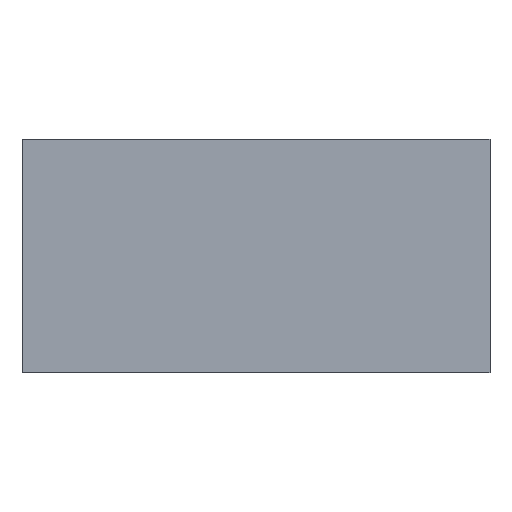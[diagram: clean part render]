
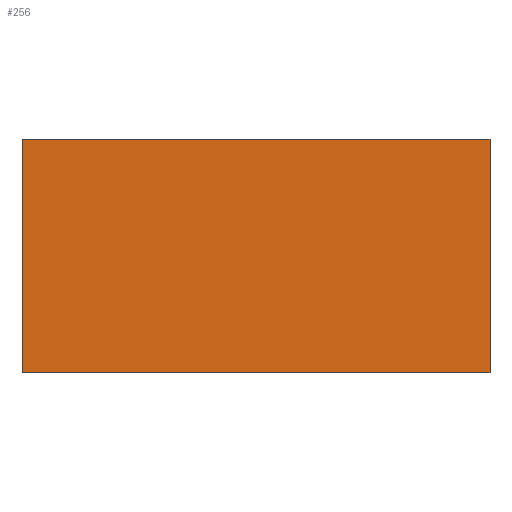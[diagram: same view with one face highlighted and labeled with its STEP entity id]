
A CAD part, front view. The second image highlights one B-rep face of the part: STEP entity #256.
In plain terms, the highlighted planar face has unit normal (0, -1, 0).
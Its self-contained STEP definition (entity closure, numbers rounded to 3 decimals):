
#40=ORIENTED_EDGE('',*,*,#79,.F.);
#41=ORIENTED_EDGE('',*,*,#78,.F.);
#42=ORIENTED_EDGE('',*,*,#80,.T.);
#43=ORIENTED_EDGE('',*,*,#81,.T.);
#78=EDGE_CURVE('',#97,#96,#114,.T.);
#79=EDGE_CURVE('',#96,#98,#115,.T.);
#80=EDGE_CURVE('',#97,#99,#116,.T.);
#81=EDGE_CURVE('',#99,#98,#117,.T.);
#96=VERTEX_POINT('',#349);
#97=VERTEX_POINT('',#351);
#98=VERTEX_POINT('',#355);
#99=VERTEX_POINT('',#357);
#114=LINE('',#352,#126);
#115=LINE('',#354,#127);
#116=LINE('',#356,#128);
#117=LINE('',#358,#129);
#126=VECTOR('',#299,1000.);
#127=VECTOR('',#302,1000.);
#128=VECTOR('',#303,1000.);
#129=VECTOR('',#304,1000.);
#134=EDGE_LOOP('',(#40,#41,#42,#43));
#156=FACE_BOUND('',#134,.T.);
#178=PLANE('',#271);
#256=ADVANCED_FACE('',(#156),#178,.T.);
#271=AXIS2_PLACEMENT_3D('',#353,#300,#301);
#299=DIRECTION('',(0.,0.,1.));
#300=DIRECTION('',(0.,-1.,0.));
#301=DIRECTION('',(0.,0.,-1.));
#302=DIRECTION('',(1.,0.,0.));
#303=DIRECTION('',(1.,0.,0.));
#304=DIRECTION('',(0.,0.,1.));
#349=CARTESIAN_POINT('',(-5.,-60.,0.));
#351=CARTESIAN_POINT('',(-5.,-60.,-5.));
#352=CARTESIAN_POINT('',(-5.,-60.,-5.));
#353=CARTESIAN_POINT('',(-5.,-60.,-5.));
#354=CARTESIAN_POINT('',(-5.,-60.,0.));
#355=CARTESIAN_POINT('',(5.,-60.,0.));
#356=CARTESIAN_POINT('',(-5.,-60.,-5.));
#357=CARTESIAN_POINT('',(5.,-60.,-5.));
#358=CARTESIAN_POINT('',(5.,-60.,-5.));
